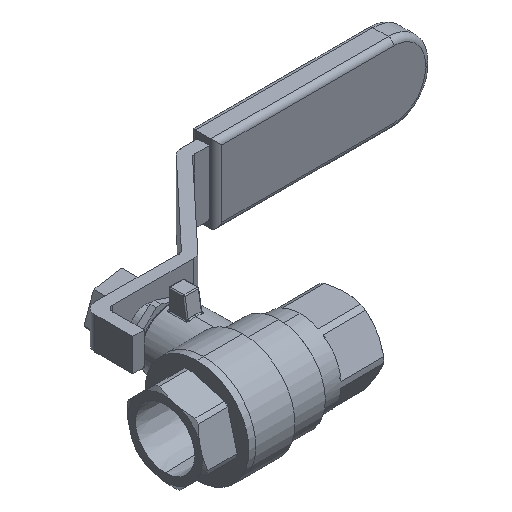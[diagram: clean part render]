
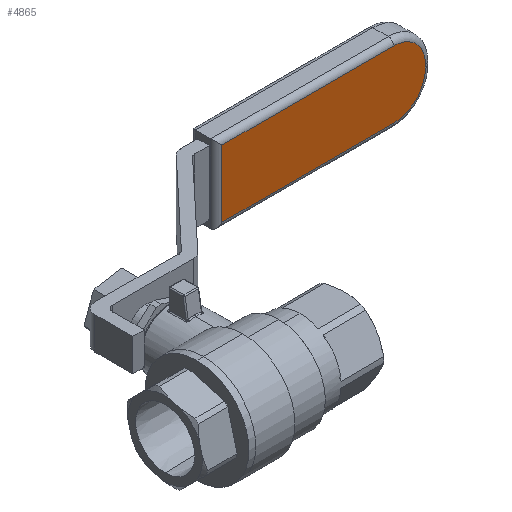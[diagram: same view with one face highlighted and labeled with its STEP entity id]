
A CAD part, isometric view. The second image highlights one B-rep face of the part: STEP entity #4865.
In plain terms, the highlighted planar face has unit normal (0, -1, 0).
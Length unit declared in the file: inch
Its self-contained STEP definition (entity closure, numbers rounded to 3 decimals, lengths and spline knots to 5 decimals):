
#441 = ORIENTED_EDGE ( 'NONE', *, *, #13693, .T. ) ;
#1247 = CARTESIAN_POINT ( 'NONE',  ( 3.02, 1.75599, -0.305 ) ) ;
#1366 = CIRCLE ( 'NONE', #8155, 0.29 ) ;
#1378 = VECTOR ( 'NONE', #9231, 39.37008 ) ;
#2695 = VERTEX_POINT ( 'NONE', #9410 ) ;
#2829 = CARTESIAN_POINT ( 'NONE',  ( 3.02, 1.75599, -0.015 ) ) ;
#3057 = CARTESIAN_POINT ( 'NONE',  ( 1.45337, 1.75599, 0.305 ) ) ;
#3165 = CARTESIAN_POINT ( 'NONE',  ( 3.31, 1.75599, 0.015 ) ) ;
#3268 = DIRECTION ( 'NONE',  ( 0., 0., 1. ) ) ;
#3423 = DIRECTION ( 'NONE',  ( -1., 0., 0. ) ) ;
#3556 = LINE ( 'NONE', #3165, #6412 ) ;
#3813 = VERTEX_POINT ( 'NONE', #7225 ) ;
#4003 = CARTESIAN_POINT ( 'NONE',  ( 3.02, 1.75599, 0.305 ) ) ;
#4091 = DIRECTION ( 'NONE',  ( 0., 0., -1. ) ) ;
#4865 = ADVANCED_FACE ( 'NONE', ( #9765 ), #7971, .T. ) ;
#5393 = EDGE_CURVE ( 'NONE', #3813, #2695, #3556, .T. ) ;
#5576 = AXIS2_PLACEMENT_3D ( 'NONE', #13782, #6591, #15015 ) ;
#5641 = CARTESIAN_POINT ( 'NONE',  ( 1.45337, 1.75599, 0.015 ) ) ;
#6167 = VECTOR ( 'NONE', #9329, 39.37008 ) ;
#6316 = CARTESIAN_POINT ( 'NONE',  ( 1.45337, 1.75599, -0.305 ) ) ;
#6412 = VECTOR ( 'NONE', #3268, 39.37008 ) ;
#6591 = DIRECTION ( 'NONE',  ( 0., -1., 0. ) ) ;
#7225 = CARTESIAN_POINT ( 'NONE',  ( 3.31, 1.75599, -0.015 ) ) ;
#7310 = CARTESIAN_POINT ( 'NONE',  ( 3.02, 1.75599, -0.305 ) ) ;
#7518 = LINE ( 'NONE', #5641, #1378 ) ;
#7674 = ORIENTED_EDGE ( 'NONE', *, *, #10492, .T. ) ;
#7782 = EDGE_CURVE ( 'NONE', #10051, #14351, #7518, .T. ) ;
#7935 = DIRECTION ( 'NONE',  ( 0., 0., -1. ) ) ;
#7937 = DIRECTION ( 'NONE',  ( 0., -1., 0. ) ) ;
#7971 = PLANE ( 'NONE',  #8383 ) ;
#8069 = CARTESIAN_POINT ( 'NONE',  ( 3.02, 1.75599, 0.015 ) ) ;
#8155 = AXIS2_PLACEMENT_3D ( 'NONE', #2829, #11263, #4091 ) ;
#8163 = ORIENTED_EDGE ( 'NONE', *, *, #7782, .T. ) ;
#8383 = AXIS2_PLACEMENT_3D ( 'NONE', #8069, #7937, #7935 ) ;
#8763 = LINE ( 'NONE', #9430, #14439 ) ;
#8781 = EDGE_CURVE ( 'NONE', #12828, #3813, #1366, .T. ) ;
#9231 = DIRECTION ( 'NONE',  ( 0., 0., -1. ) ) ;
#9329 = DIRECTION ( 'NONE',  ( 1., 0., 0. ) ) ;
#9339 = LINE ( 'NONE', #7310, #6167 ) ;
#9410 = CARTESIAN_POINT ( 'NONE',  ( 3.31, 1.75599, 0.015 ) ) ;
#9430 = CARTESIAN_POINT ( 'NONE',  ( 3.02, 1.75599, 0.305 ) ) ;
#9765 = FACE_OUTER_BOUND ( 'NONE', #11863, .T. ) ;
#10051 = VERTEX_POINT ( 'NONE', #3057 ) ;
#10492 = EDGE_CURVE ( 'NONE', #14351, #12828, #9339, .T. ) ;
#10952 = EDGE_CURVE ( 'NONE', #2695, #14175, #12320, .T. ) ;
#11263 = DIRECTION ( 'NONE',  ( 0., -1., 0. ) ) ;
#11863 = EDGE_LOOP ( 'NONE', ( #12154, #441, #8163, #7674, #13591, #14979 ) ) ;
#12154 = ORIENTED_EDGE ( 'NONE', *, *, #10952, .T. ) ;
#12320 = CIRCLE ( 'NONE', #5576, 0.29 ) ;
#12828 = VERTEX_POINT ( 'NONE', #1247 ) ;
#13591 = ORIENTED_EDGE ( 'NONE', *, *, #8781, .T. ) ;
#13693 = EDGE_CURVE ( 'NONE', #14175, #10051, #8763, .T. ) ;
#13782 = CARTESIAN_POINT ( 'NONE',  ( 3.02, 1.75599, 0.015 ) ) ;
#14175 = VERTEX_POINT ( 'NONE', #4003 ) ;
#14351 = VERTEX_POINT ( 'NONE', #6316 ) ;
#14439 = VECTOR ( 'NONE', #3423, 39.37008 ) ;
#14979 = ORIENTED_EDGE ( 'NONE', *, *, #5393, .T. ) ;
#15015 = DIRECTION ( 'NONE',  ( 0., 0., -1. ) ) ;
